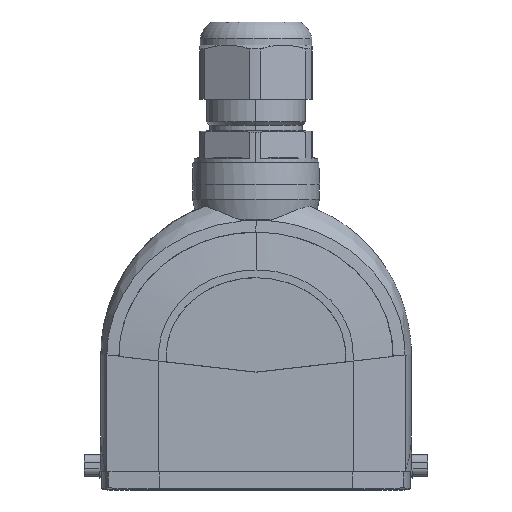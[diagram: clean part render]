
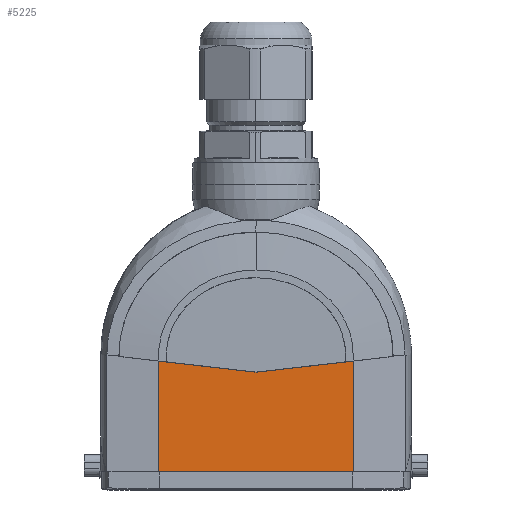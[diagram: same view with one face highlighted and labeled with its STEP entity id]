
A CAD part, front view. The second image highlights one B-rep face of the part: STEP entity #5225.
In plain terms, the highlighted planar face has unit normal (0, -1, 0).
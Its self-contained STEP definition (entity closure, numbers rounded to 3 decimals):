
#5225=ADVANCED_FACE('',(#6304),#5863,.F.);
#5863=PLANE('',#17659);
#6304=FACE_OUTER_BOUND('',#6944,.T.);
#6944=EDGE_LOOP('',(#8107,#8108,#8109,#8110,#8111));
#8107=ORIENTED_EDGE('',*,*,#13044,.T.);
#8108=ORIENTED_EDGE('',*,*,#13048,.T.);
#8109=ORIENTED_EDGE('',*,*,#13049,.T.);
#8110=ORIENTED_EDGE('',*,*,#13050,.T.);
#8111=ORIENTED_EDGE('',*,*,#13051,.T.);
#11717=VERTEX_POINT('',#24389);
#11718=VERTEX_POINT('',#24391);
#11721=VERTEX_POINT('',#24405);
#11722=VERTEX_POINT('',#24407);
#11723=VERTEX_POINT('',#24409);
#13044=EDGE_CURVE('',#11718,#11717,#14748,.T.);
#13048=EDGE_CURVE('',#11717,#11721,#14750,.T.);
#13049=EDGE_CURVE('',#11721,#11722,#14751,.T.);
#13050=EDGE_CURVE('',#11722,#11723,#14752,.T.);
#13051=EDGE_CURVE('',#11723,#11718,#14753,.T.);
#14748=LINE('',#24390,#15906);
#14750=LINE('',#24404,#15908);
#14751=LINE('',#24406,#15909);
#14752=LINE('',#24408,#15910);
#14753=LINE('',#24410,#15911);
#15906=VECTOR('',#19120,1.);
#15908=VECTOR('',#19124,1.);
#15909=VECTOR('',#19125,1.);
#15910=VECTOR('',#19126,1.);
#15911=VECTOR('',#19127,1.);
#17659=AXIS2_PLACEMENT_3D('',#24411,#19128,#19129);
#19120=DIRECTION('',(0.,0.,-1.));
#19124=DIRECTION('',(1.,0.,0.));
#19125=DIRECTION('',(0.,0.,1.));
#19126=DIRECTION('',(-0.994,0.,-0.113));
#19127=DIRECTION('',(-0.994,0.,0.113));
#19128=DIRECTION('',(0.,1.,0.));
#19129=DIRECTION('',(-1.,0.,0.));
#24389=CARTESIAN_POINT('',(-25.25,-16.,-10.35));
#24390=CARTESIAN_POINT('',(-25.25,-16.,19.9));
#24391=CARTESIAN_POINT('',(-25.25,-16.,18.373));
#24404=CARTESIAN_POINT('',(-25.25,-16.,-10.35));
#24405=CARTESIAN_POINT('',(25.25,-16.,-10.35));
#24406=CARTESIAN_POINT('',(25.25,-16.,19.9));
#24407=CARTESIAN_POINT('',(25.25,-16.,18.373));
#24408=CARTESIAN_POINT('',(25.422,-16.,18.393));
#24409=CARTESIAN_POINT('',(0.,-16.,15.496));
#24410=CARTESIAN_POINT('',(-25.422,-16.,18.393));
#24411=CARTESIAN_POINT('',(-25.25,-16.,19.9));
